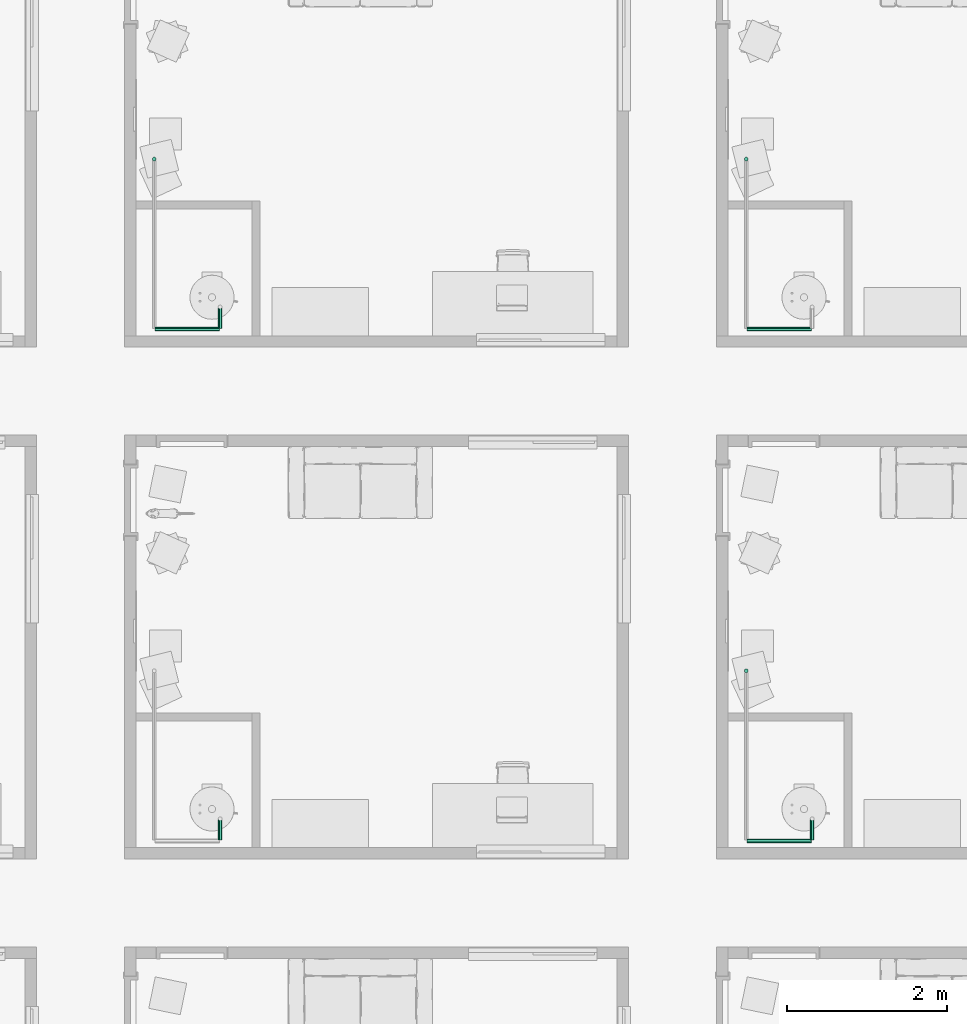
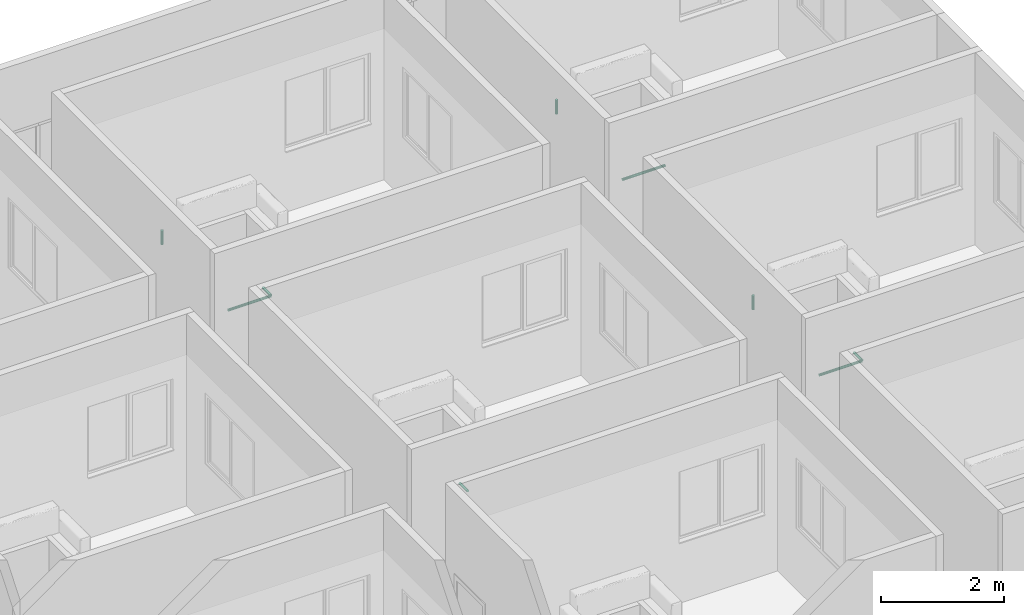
# One storey, part 51 of 71: 9 pipe segments.
"""IFC4 building model written with IfcOpenShell, lengths in centimetres."""

from ifc_helpers import new_model, entity, si_unit, converted_unit, derived_unit, direction, frame, origin, place, context, subcontext, project, spatial, arc, indexed_curve, outline, extrude, type_object, element, save


model = new_model("IFC4")

# Units and contexts
model_context = context("Model", 3, precision=0.001, world=origin(), true_north=direction((6.123233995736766e-17, 1.0)))
body_context = subcontext(model_context, "Body", "Model", "MODEL_VIEW")
ifc_project = project(units=[si_unit("LENGTHUNIT", "METRE", prefix="CENTI"), si_unit("AREAUNIT", "SQUARE_METRE"), si_unit("VOLUMEUNIT", "CUBIC_METRE"), derived_unit("THERMALTRANSMITTANCEUNIT", [(si_unit("MASSUNIT", "GRAM", prefix="KILO"), 1), (si_unit("THERMODYNAMICTEMPERATUREUNIT", "KELVIN"), -1), (si_unit("TIMEUNIT", "SECOND"), -3)]), converted_unit("PLANEANGLEUNIT", "DEGREE", entity("IfcPlaneAngleMeasure", 0.017453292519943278), si_unit("PLANEANGLEUNIT", "RADIAN"), dimensions=[0, 0, 0, 0, 0, 0, 0]), derived_unit("MASSDENSITYUNIT", [(si_unit("MASSUNIT", "GRAM", prefix="KILO"), 1), (si_unit("LENGTHUNIT", "METRE"), -3)]), derived_unit("VAPORPERMEABILITYUNIT", [(si_unit("LENGTHUNIT", "METRE"), -1), (si_unit("TIMEUNIT", "SECOND"), 1)]), derived_unit("USERDEFINED", [(si_unit("MASSUNIT", "GRAM", prefix="KILO"), 1), (si_unit("TIMEUNIT", "SECOND"), -3), (si_unit("LENGTHUNIT", "METRE"), 3), (si_unit("ELECTRICCURRENTUNIT", "AMPERE"), -2)]), derived_unit("SPECIFICHEATCAPACITYUNIT", [(si_unit("THERMODYNAMICTEMPERATUREUNIT", "KELVIN"), -1), (si_unit("LENGTHUNIT", "METRE"), 2), (si_unit("TIMEUNIT", "SECOND"), -2)]), derived_unit("THERMALCONDUCTANCEUNIT", [(si_unit("MASSUNIT", "GRAM", prefix="KILO"), 1), (si_unit("THERMODYNAMICTEMPERATUREUNIT", "KELVIN"), -1), (si_unit("TIMEUNIT", "SECOND"), -3), (si_unit("LENGTHUNIT", "METRE"), 1)]), si_unit("PRESSUREUNIT", "PASCAL"), derived_unit("MODULUSOFELASTICITYUNIT", [(si_unit("MASSUNIT", "GRAM", prefix="KILO"), 1), (si_unit("LENGTHUNIT", "METRE"), -1), (si_unit("TIMEUNIT", "SECOND"), -2)]), derived_unit("THERMALEXPANSIONCOEFFICIENTUNIT", [(si_unit("THERMODYNAMICTEMPERATUREUNIT", "KELVIN"), -1)])], contexts=[model_context])

# Site, building, storey
site_placement = place(None, origin())
site = spatial("IfcSite", under=ifc_project, at=site_placement, Name="Default", CompositionType="ELEMENT")
building_placement = place(site_placement, origin())
building = spatial("IfcBuilding", under=site, at=building_placement, Name="IDS Escape Game Building", CompositionType="ELEMENT")
storey_placement = place(building_placement, frame((0.0, 0.0, 1200.0)))
storey = spatial("IfcBuildingStorey", under=building, at=storey_placement, Name="03_Third Floor", CompositionType="ELEMENT", Elevation=1200.0)

# Pipe segments
pipe_segment_type = type_object("IfcPipeSegmentType", Name="Pipe Types:Piping Aluminum", PredefinedType="NOTDEFINED")
pipe_segment_1_placement = place(storey_placement, origin())
element("IfcPipeSegment", 1, at=pipe_segment_1_placement, inside=storey, type_object=pipe_segment_type, Name="Pipe Types:Piping Aluminum", ObjectType="Pipe Types:Piping Aluminum", PredefinedType="NOTDEFINED", context=body_context, shape_type="SweptSolid", body=[
    extrude(outline(indexed_curve([(2.4129999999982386, 0.0), (1.706248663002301, 1.7062486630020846), (1.2994405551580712e-12, 2.412999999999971), (-1.7062486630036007, 1.7062486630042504), (-2.413000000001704, 0.0), (-1.7062486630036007, -1.7062486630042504), (1.2994405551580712e-12, -2.412999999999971), (1.706248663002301, -1.7062486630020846)], segments=[arc(1, 2, 3), arc(3, 4, 5), arc(5, 6, 7), arc(7, 8, 1)], self_intersect=False)), frame((3802.150000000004, 1936.3648279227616, 242.0), z_axis=(0.0, 1.0, 0.0), x_axis=(-1.0, 0.0, 0.0)), (0.0, 0.0, 1.0), 25.435172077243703),
])
pipe_segment_2_placement = place(storey_placement, origin())
element("IfcPipeSegment", 2, at=pipe_segment_2_placement, inside=storey, type_object=pipe_segment_type, Name="Pipe Types:Piping Aluminum", ObjectType="Pipe Types:Piping Aluminum", PredefinedType="NOTDEFINED", context=body_context, shape_type="SweptSolid", body=[
    extrude(outline(indexed_curve([(2.412999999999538, -2.165734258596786e-13), (1.7062486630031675, 1.7062486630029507), (4.331468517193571e-13, 2.4130000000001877), (-1.706248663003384, 1.7062486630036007), (-2.4130000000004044, -2.165734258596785e-13), (-1.7062486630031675, -1.706248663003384), (4.3314685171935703e-13, -2.4129999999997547), (1.7062486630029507, -1.7062486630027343)], segments=[arc(1, 2, 3), arc(3, 4, 5), arc(5, 6, 7), arc(7, 8, 1)], self_intersect=False)), frame((4459.146716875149, 1935.2648279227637, 242.0), z_axis=(1.0, 0.0, 0.0), x_axis=(0.0, 1.0, 0.0)), (0.0, 0.0, 1.0), 79.90328312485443),
])
pipe_segment_3_placement = place(storey_placement, origin())
element("IfcPipeSegment", 3, at=pipe_segment_3_placement, inside=storey, type_object=pipe_segment_type, Name="Pipe Types:Piping Aluminum", ObjectType="Pipe Types:Piping Aluminum", PredefinedType="NOTDEFINED", context=body_context, shape_type="SweptSolid", body=[
    extrude(outline(indexed_curve([(2.412999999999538, 0.0), (1.7062486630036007, 1.706248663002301), (1.7325874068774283e-12, 2.412999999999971), (-1.7062486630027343, 1.7062486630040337), (-2.413000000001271, 0.0), (-1.7062486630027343, -1.7062486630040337), (1.7325874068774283e-12, -2.412999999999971), (1.7062486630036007, -1.706248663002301)], segments=[arc(1, 2, 3), arc(3, 4, 5), arc(5, 6, 7), arc(7, 8, 1)], self_intersect=False)), frame((4540.150000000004, 1936.3648279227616, 242.0), z_axis=(0.0, 1.0, 0.0), x_axis=(-1.0, 0.0, 0.0)), (0.0, 0.0, 1.0), 25.435172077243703),
])
pipe_segment_4_placement = place(storey_placement, origin())
element("IfcPipeSegment", 4, at=pipe_segment_4_placement, inside=storey, type_object=pipe_segment_type, Name="Pipe Types:Piping Aluminum", ObjectType="Pipe Types:Piping Aluminum", PredefinedType="NOTDEFINED", context=body_context, shape_type="SweptSolid", body=[
    extrude(outline(indexed_curve([(2.4130000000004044, 0.0), (1.7062486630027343, 1.7062486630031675), (0.0, 2.412999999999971), (-1.7062486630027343, 1.7062486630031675), (-2.4130000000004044, 0.0), (-1.7062486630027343, -1.7062486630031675), (0.0, -2.412999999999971), (1.7062486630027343, -1.7062486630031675)], segments=[arc(1, 2, 3), arc(3, 4, 5), arc(5, 6, 7), arc(7, 8, 1)], self_intersect=False)), frame((4458.046716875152, 2147.2648279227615, 244.09999999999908), z_axis=(0.0, 0.0, 1.0), x_axis=(-1.0, 0.0, 0.0)), (0.0, 0.0, 1.0), 27.90000000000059),
])
pipe_segment_5_placement = place(storey_placement, origin())
element("IfcPipeSegment", 5, at=pipe_segment_5_placement, inside=storey, type_object=pipe_segment_type, Name="Pipe Types:Piping Aluminum", ObjectType="Pipe Types:Piping Aluminum", PredefinedType="NOTDEFINED", context=body_context, shape_type="SweptSolid", body=[
    extrude(outline(indexed_curve([(2.412999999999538, -2.165734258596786e-13), (1.7062486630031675, 1.7062486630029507), (4.331468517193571e-13, 2.4130000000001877), (-1.7062486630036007, 1.7062486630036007), (-2.4130000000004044, -2.165734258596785e-13), (-1.7062486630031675, -1.706248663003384), (4.3314685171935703e-13, -2.4129999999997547), (1.7062486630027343, -1.7062486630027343)], segments=[arc(1, 2, 3), arc(3, 4, 5), arc(5, 6, 7), arc(7, 8, 1)], self_intersect=False)), frame((3721.1467168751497, 2573.2648279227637, 242.0), z_axis=(1.0, 0.0, 0.0), x_axis=(0.0, 1.0, 0.0)), (0.0, 0.0, 1.0), 79.90328312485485),
])
pipe_segment_6_placement = place(storey_placement, origin())
element("IfcPipeSegment", 6, at=pipe_segment_6_placement, inside=storey, type_object=pipe_segment_type, Name="Pipe Types:Piping Aluminum", ObjectType="Pipe Types:Piping Aluminum", PredefinedType="NOTDEFINED", context=body_context, shape_type="SweptSolid", body=[
    extrude(outline(indexed_curve([(2.4129999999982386, 0.0), (1.706248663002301, 1.7062486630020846), (1.2994405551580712e-12, 2.412999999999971), (-1.7062486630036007, 1.7062486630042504), (-2.413000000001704, 0.0), (-1.7062486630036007, -1.7062486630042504), (1.2994405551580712e-12, -2.412999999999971), (1.706248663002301, -1.7062486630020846)], segments=[arc(1, 2, 3), arc(3, 4, 5), arc(5, 6, 7), arc(7, 8, 1)], self_intersect=False)), frame((3802.150000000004, 2574.3648279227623, 242.0), z_axis=(0.0, 1.0, 0.0), x_axis=(-1.0, 0.0, 0.0)), (0.0, 0.0, 1.0), 25.43517207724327),
])
pipe_segment_7_placement = place(storey_placement, origin())
element("IfcPipeSegment", 7, at=pipe_segment_7_placement, inside=storey, type_object=pipe_segment_type, Name="Pipe Types:Piping Aluminum", ObjectType="Pipe Types:Piping Aluminum", PredefinedType="NOTDEFINED", context=body_context, shape_type="SweptSolid", body=[
    extrude(outline(indexed_curve([(2.412999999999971, 4.331468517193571e-13), (1.7062486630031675, 1.7062486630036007), (0.0, 2.4130000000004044), (-1.7062486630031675, 1.7062486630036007), (-2.412999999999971, 4.331468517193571e-13), (-1.7062486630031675, -1.7062486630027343), (0.0, -2.412999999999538), (1.7062486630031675, -1.7062486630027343)], segments=[arc(1, 2, 3), arc(3, 4, 5), arc(5, 6, 7), arc(7, 8, 1)], self_intersect=False)), frame((3720.0467168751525, 2785.264827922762, 244.09999999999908), z_axis=(0.0, 0.0, 1.0), x_axis=(-1.0, 0.0, 0.0)), (0.0, 0.0, 1.0), 27.90000000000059),
])
pipe_segment_8_placement = place(storey_placement, origin())
element("IfcPipeSegment", 8, at=pipe_segment_8_placement, inside=storey, type_object=pipe_segment_type, Name="Pipe Types:Piping Aluminum", ObjectType="Pipe Types:Piping Aluminum", PredefinedType="NOTDEFINED", context=body_context, shape_type="SweptSolid", body=[
    extrude(outline(indexed_curve([(2.412999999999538, -2.165734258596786e-13), (1.7062486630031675, 1.7062486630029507), (4.331468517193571e-13, 2.4130000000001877), (-1.7062486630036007, 1.7062486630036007), (-2.4130000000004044, -2.165734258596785e-13), (-1.7062486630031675, -1.706248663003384), (4.3314685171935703e-13, -2.4129999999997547), (1.7062486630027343, -1.7062486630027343)], segments=[arc(1, 2, 3), arc(3, 4, 5), arc(5, 6, 7), arc(7, 8, 1)], self_intersect=False)), frame((4459.146716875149, 2573.2648279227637, 242.0), z_axis=(1.0, 0.0, 0.0), x_axis=(0.0, 1.0, 0.0)), (0.0, 0.0, 1.0), 79.90328312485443),
])
pipe_segment_9_placement = place(storey_placement, origin())
element("IfcPipeSegment", 9, at=pipe_segment_9_placement, inside=storey, type_object=pipe_segment_type, Name="Pipe Types:Piping Aluminum", ObjectType="Pipe Types:Piping Aluminum", PredefinedType="NOTDEFINED", context=body_context, shape_type="SweptSolid", body=[
    extrude(outline(indexed_curve([(2.4130000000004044, 4.331468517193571e-13), (1.7062486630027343, 1.7062486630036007), (0.0, 2.4130000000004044), (-1.7062486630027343, 1.7062486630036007), (-2.4130000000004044, 4.331468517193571e-13), (-1.7062486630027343, -1.7062486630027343), (0.0, -2.412999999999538), (1.7062486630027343, -1.7062486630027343)], segments=[arc(1, 2, 3), arc(3, 4, 5), arc(5, 6, 7), arc(7, 8, 1)], self_intersect=False)), frame((4458.046716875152, 2785.264827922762, 244.09999999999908), z_axis=(0.0, 0.0, 1.0), x_axis=(-1.0, 0.0, 0.0)), (0.0, 0.0, 1.0), 27.90000000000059),
])

save(model, "model.ifc")
